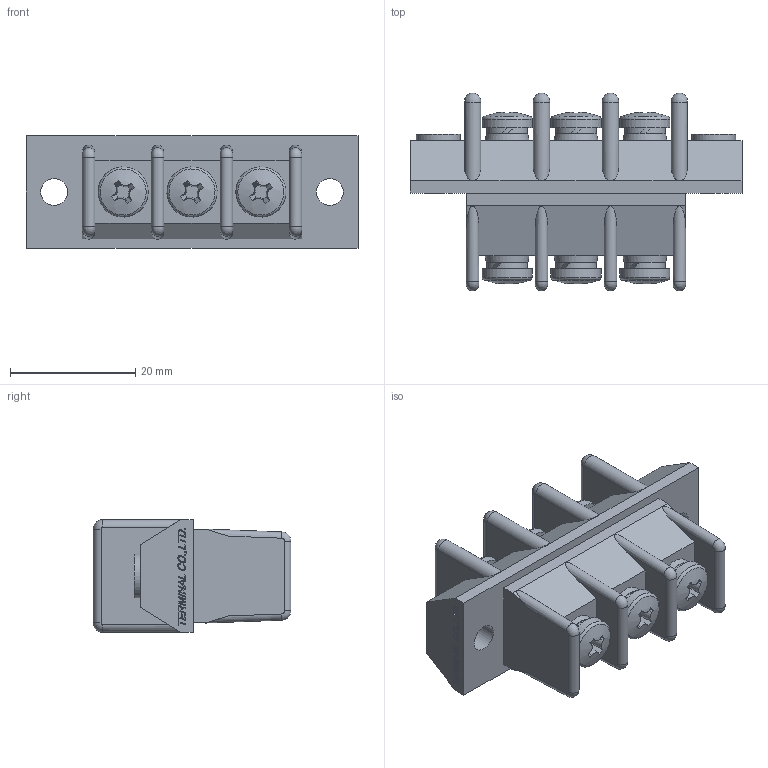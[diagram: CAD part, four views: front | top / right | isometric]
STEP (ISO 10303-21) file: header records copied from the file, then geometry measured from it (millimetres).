
FILE_DESCRIPTION(/* description */ ('Alibre Inc.'),/* implementation_level */ '2;1');
FILE_NAME(/* name */ 'export0',/* time_stamp */ '2016-01-16T17:51:37+09:00',/* author */ (''),/* organization */ (''),/* preprocessor_version */ 'ST-DEVELOPER v14',/* originating_system */ 'Alibre',/* authorisation */ '');
FILE_SCHEMA (('CONFIG_CONTROL_DESIGN'));
Length unit declared in the file: centimetre
Products named in the file (1): ID_1
Bounding box: 53 x 31.57 x 18 mm (x, y, z)
Volume: 13921.4 mm3; surface area: 7146.3 mm2
Topology: 1 solids, 4 shells, 640 faces, 1672 edges, 1107 vertices
Faces by surface type: plane 423, bspline 104, cylinder 49, cone 36, torus 22, sphere 6
Full cylindrical faces by diameter (mm): 4 x3, 4.3 x2, 6.5 x6, 7 x2, 8 x6
Entity records: 19212 total; most frequent: CARTESIAN_POINT 4496, ORIENTED_EDGE 3272, DIRECTION 2336, EDGE_CURVE 1636, VERTEX_POINT 1102, VECTOR 1050, LINE 1050, AXIS2_PLACEMENT_3D 856
